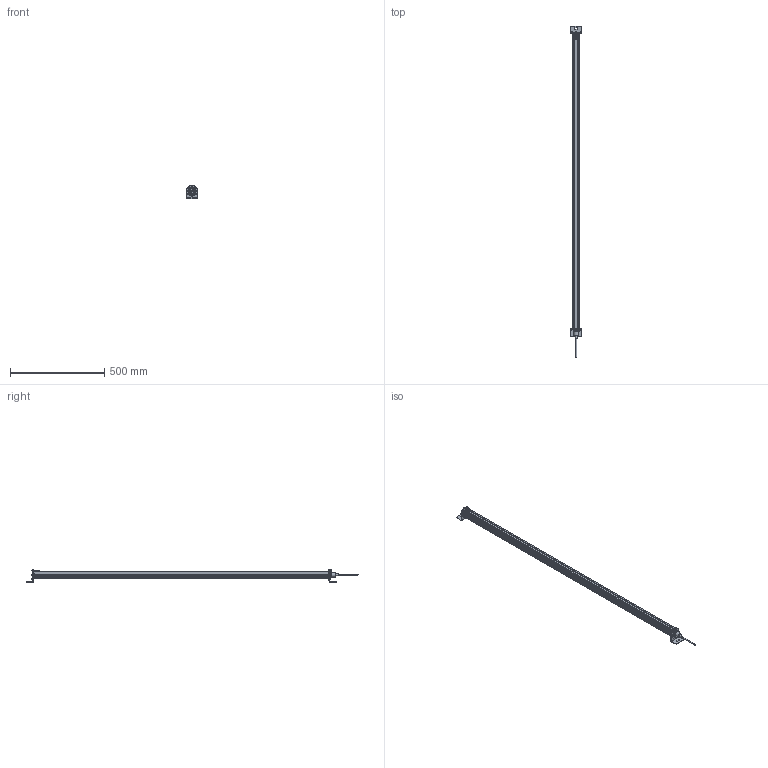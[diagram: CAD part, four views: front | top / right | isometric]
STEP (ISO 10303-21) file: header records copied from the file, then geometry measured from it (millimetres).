
FILE_DESCRIPTION(/* description */ (''),/* implementation_level */ '2;1');
FILE_NAME(/* name */ 'C:\ACADFILES\MG_PYLONS\IGES\MG-60-PYLON_3D_SMB.stp',/* time_stamp */ '2018-06-15T11:29:03-05:00',/* author */ ('ENGINEERMAIN'),/* organization */ ('unknown'),/* preprocessor_version */ 'ST-DEVELOPER v17',/* originating_system */ 'Autodesk Inventor 2018',/* authorisation */ '');
FILE_SCHEMA (('CONFIG_CONTROL_DESIGN'));
Length unit declared in the file: inch
Products named in the file (1): MG-60-PYLON_3D_SMB
Bounding box: 57.29 x 1763.84 x 69.85 mm (x, y, z)
Volume: 632271.7 mm3; surface area: 620660 mm2
Topology: 30 solids, 31 shells, 766 faces, 1731 edges, 1047 vertices
Faces by surface type: plane 579, cone 80, cylinder 75, bspline 16, torus 16
Full cylindrical faces by diameter (mm): 2.845 x16, 2.886 x2, 3.045 x8, 3.067 x1, 3.969 x1, 5.563 x16, 7.443 x3, 9.741 x1, 12.548 x1, 24.181 x1, 26.649 x1, 27.94 x2, 31.929 x1, 34.075 x1, 34.314 x2, 57.15 x3
Entity records: 21551 total; most frequent: CARTESIAN_POINT 4771, ORIENTED_EDGE 3460, DIRECTION 3396, EDGE_CURVE 1731, AXIS2_PLACEMENT_3D 1203, VERTEX_POINT 1047, LINE 990, VECTOR 990
